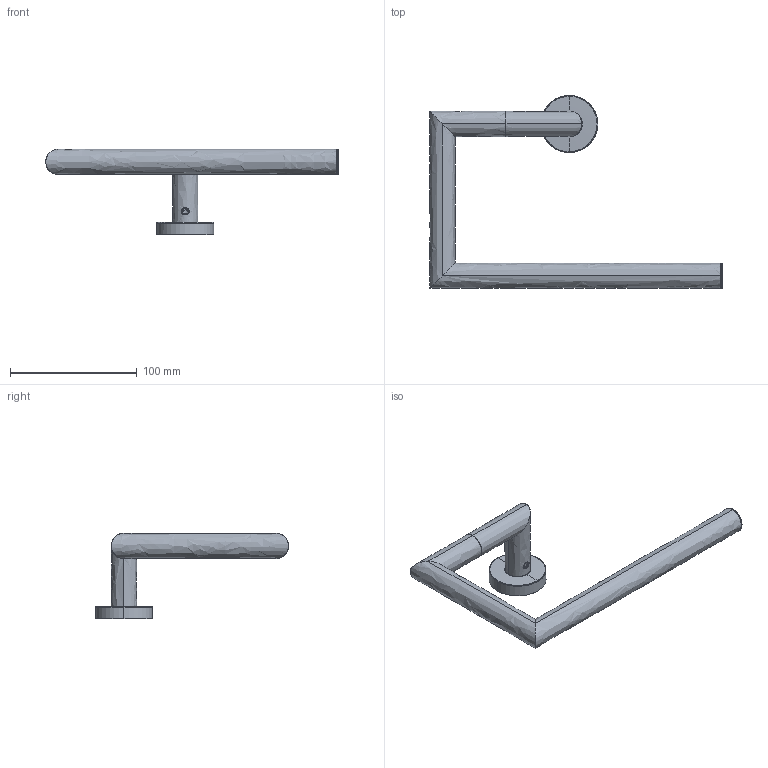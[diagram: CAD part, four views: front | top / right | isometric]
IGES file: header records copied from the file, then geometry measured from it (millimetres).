
Start section: SolidWorks IGES file using analytic representation for surfaces
Global section: file name: G:\Projects\New project\For Marketing\IGS\IGS\2015-11-27\332057002VW.IGS; native system: SolidWorks 2010; preprocessor: SolidWorks 2010; author: linda; date: 151127.142027; units: millimetre
Bounding box: 231 x 152.5 x 67.5 mm (x, y, z)
Surface area: 40347.6 mm2 (no closed solid volume)
Topology: 0 solids, 0 shells, 150 faces, 2429 edges, 2427 vertices
Faces by surface type: bspline 95, revolution 55
